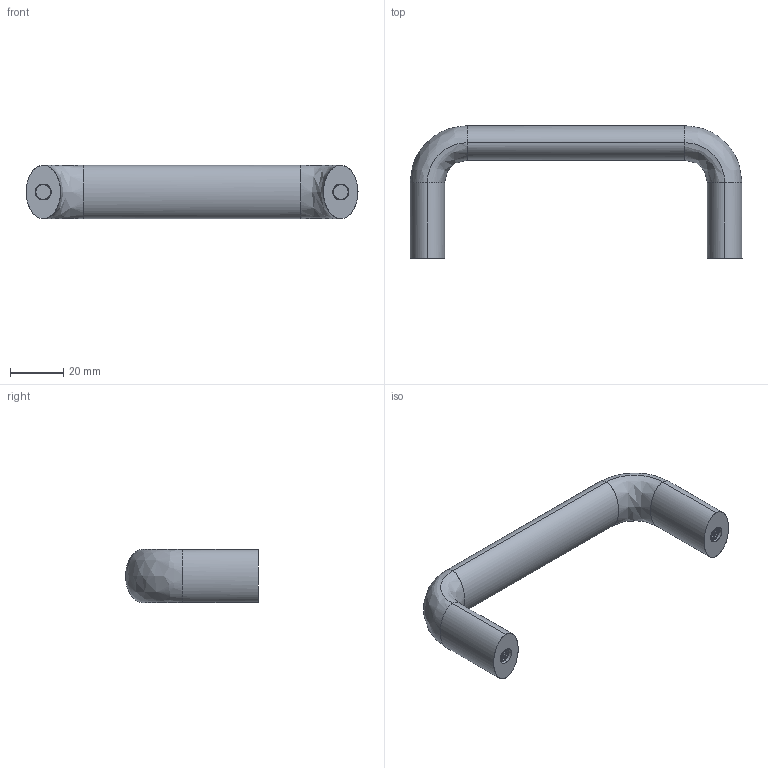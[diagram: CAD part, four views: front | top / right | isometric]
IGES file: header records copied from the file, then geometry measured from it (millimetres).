
Start section: SolidWorks IGES file using analytic representation for surfaces
Global section: file name: C:\Documents and Settings\Deathkiller\桌面\3D IGES\U型把手\MS-740\20\p=112.IGS; native system: SolidWorks 2006 by SolidWorks Corporation; preprocessor: SolidWorks 2006 by SolidWorks Corporation; author: Deathkiller; date: 080624.172011; units: millimetre
Bounding box: 125 x 50 x 20 mm (x, y, z)
Surface area: 10609.5 mm2 (no closed solid volume)
Topology: 0 solids, 0 shells, 62 faces, 1392 edges, 1392 vertices
Faces by surface type: revolution 40, bspline 22
